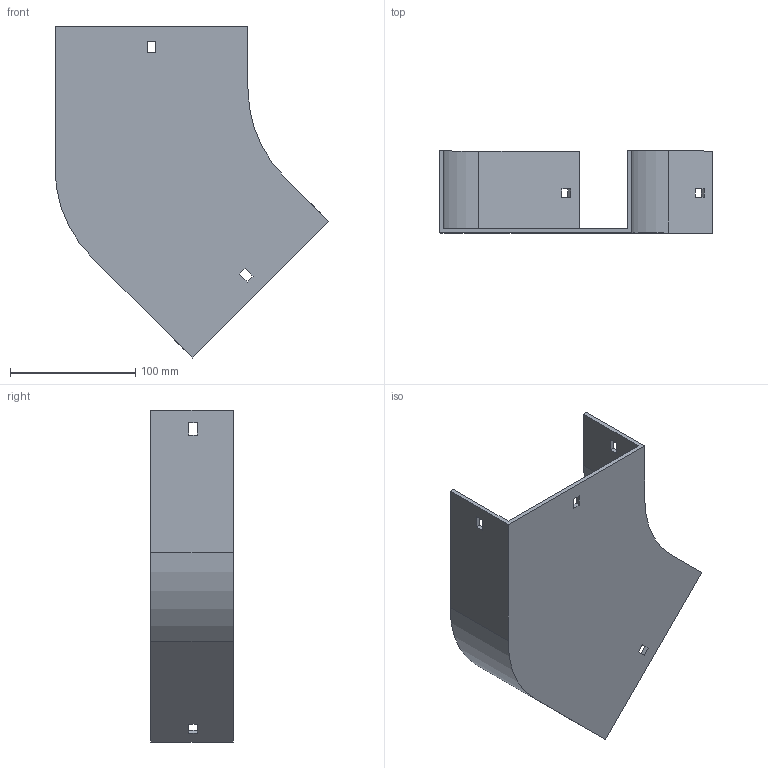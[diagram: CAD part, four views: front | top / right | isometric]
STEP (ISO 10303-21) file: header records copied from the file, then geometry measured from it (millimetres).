
FILE_DESCRIPTION (( 'STEP AP214' ), '1' );
FILE_NAME ('11B1H150.step', '2025-02-21T09:38:07', ( '' ), ( '' ), 'SwSTEP 2.0', 'SolidWorks 2023', '' );
FILE_SCHEMA (( 'AUTOMOTIVE_DESIGN' ));
Length unit declared in the file: millimetre
Products named in the file (1): 11B1H150
Bounding box: 218.64 x 65.5 x 264.96 mm (x, y, z)
Volume: 236715.6 mm3; surface area: 139601.4 mm2
Topology: 1 solids, 1 shells, 42 faces, 120 edges, 80 vertices
Faces by surface type: plane 38, cylinder 4
Entity records: 1399 total; most frequent: CARTESIAN_POINT 243, ORIENTED_EDGE 240, DIRECTION 214, EDGE_CURVE 120, LINE 112, VECTOR 112, VERTEX_POINT 80, EDGE_LOOP 54
